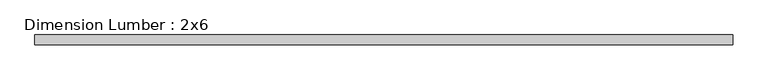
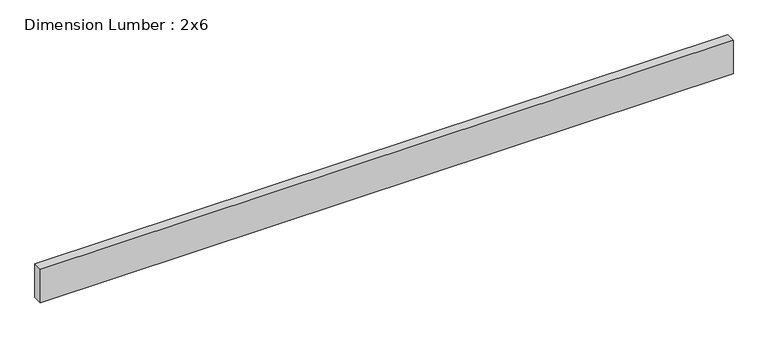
"""IFC4 building model written with IfcOpenShell, lengths in millimetres: beam geometry, Dimension Lumber : 2x6."""

from ifc_helpers import new_model, si_unit, frame, origin, place, context, project, spatial, polyline, outline, extrude, source, transform, mapped, element, save


def dimension_lumber_2x6_2d2301bf(model_context):
    return source(origin(), model_context, "Body", "SweptSolid", [
        extrude(outline(polyline([(1381.125, 19.05), (1381.125, -19.05), (-1362.075, -19.05), (-1362.075, 19.05), (1381.125, 19.05)])), frame((0.0, 0.0, -69.85), z_axis=(0.0, 0.0, 1.0), x_axis=(1.0, 0.0, 0.0)), (0.0, 0.0, 1.0), 139.7),
    ])


if __name__ == "__main__":
    model = new_model("IFC4")
    model_context = context("Model", 3, world=origin())
    ifc_project = project(units=[si_unit("LENGTHUNIT", "METRE", prefix="MILLI")], contexts=[model_context])
    site = spatial("IfcSite", under=ifc_project)
    building = spatial("IfcBuilding", under=site)
    placement = place(None, origin())
    dimension_lumber_2x6_shape = dimension_lumber_2x6_2d2301bf(model_context)
    element("IfcBeam", 1, ObjectType="Dimension Lumber : 2x6", at=placement, inside=building, context=model_context, shape_type="MappedRepresentation", body=[
        mapped(dimension_lumber_2x6_shape, transform((0.0, 0.0, 0.0), x_axis=(1.0, 0.0, 0.0), y_axis=(0.0, 1.0, 0.0), z_axis=(0.0, 0.0, 1.0))),
    ])
    save(model, "model.ifc")
